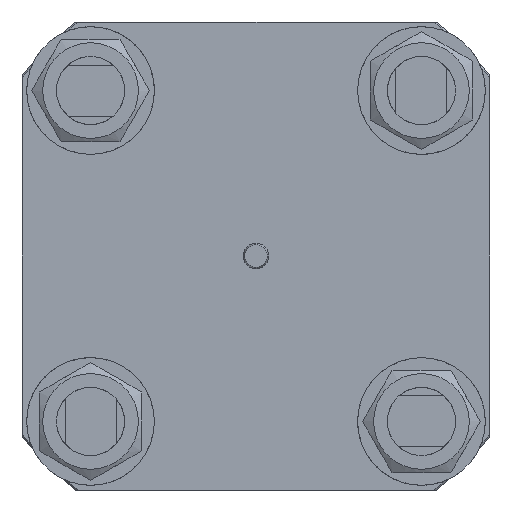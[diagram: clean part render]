
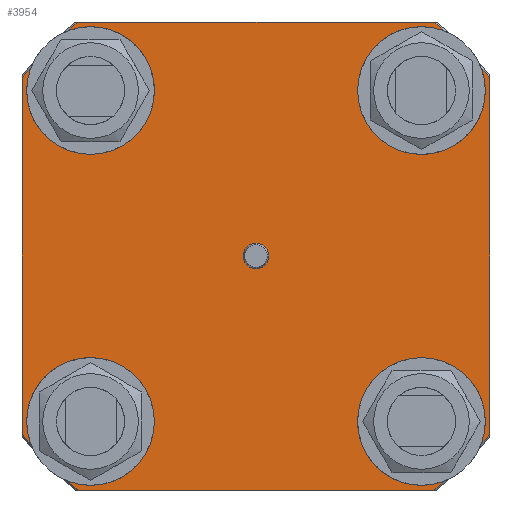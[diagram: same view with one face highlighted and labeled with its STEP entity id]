
A CAD part, left-side view. The second image highlights one B-rep face of the part: STEP entity #3954.
In plain terms, the highlighted planar face has unit normal (-1, 0, 0).
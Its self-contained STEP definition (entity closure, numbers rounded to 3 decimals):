
#285=FACE_BOUND('',#671,.T.);
#424=FACE_OUTER_BOUND('',#670,.T.);
#670=EDGE_LOOP('',(#2936,#2937,#2938,#2939,#2940,#2941,#2942,#2943,#2944,
#2945,#2946,#2947,#2948,#2949,#2950,#2951,#2952,#2953,#2954,#2955));
#671=EDGE_LOOP('',(#2956));
#913=CIRCLE('',#4267,3.);
#926=CIRCLE('',#4312,15.);
#927=CIRCLE('',#4313,15.);
#928=CIRCLE('',#4315,69.);
#929=CIRCLE('',#4316,69.);
#930=CIRCLE('',#4317,15.);
#931=CIRCLE('',#4318,15.);
#932=CIRCLE('',#4319,69.);
#933=CIRCLE('',#4320,69.);
#934=CIRCLE('',#4321,15.);
#935=CIRCLE('',#4322,15.);
#936=CIRCLE('',#4323,69.);
#937=CIRCLE('',#4324,69.);
#938=CIRCLE('',#4325,15.);
#939=CIRCLE('',#4326,15.);
#940=CIRCLE('',#4327,69.);
#941=CIRCLE('',#4328,69.);
#1169=LINE('',#6382,#1384);
#1170=LINE('',#6392,#1385);
#1171=LINE('',#6402,#1386);
#1172=LINE('',#6412,#1387);
#1384=VECTOR('',#5117,10.);
#1385=VECTOR('',#5126,10.);
#1386=VECTOR('',#5135,10.);
#1387=VECTOR('',#5144,10.);
#1620=VERTEX_POINT('',#6146);
#1666=VERTEX_POINT('',#6366);
#1667=VERTEX_POINT('',#6367);
#1669=VERTEX_POINT('',#6374);
#1670=VERTEX_POINT('',#6379);
#1671=VERTEX_POINT('',#6381);
#1672=VERTEX_POINT('',#6383);
#1673=VERTEX_POINT('',#6385);
#1674=VERTEX_POINT('',#6387);
#1675=VERTEX_POINT('',#6389);
#1676=VERTEX_POINT('',#6391);
#1677=VERTEX_POINT('',#6393);
#1678=VERTEX_POINT('',#6395);
#1679=VERTEX_POINT('',#6397);
#1680=VERTEX_POINT('',#6399);
#1681=VERTEX_POINT('',#6401);
#1682=VERTEX_POINT('',#6403);
#1683=VERTEX_POINT('',#6405);
#1684=VERTEX_POINT('',#6407);
#1685=VERTEX_POINT('',#6409);
#1686=VERTEX_POINT('',#6411);
#2048=EDGE_CURVE('',#1620,#1620,#913,.T.);
#2123=EDGE_CURVE('',#1666,#1669,#926,.T.);
#2124=EDGE_CURVE('',#1669,#1667,#927,.T.);
#2126=EDGE_CURVE('',#1667,#1670,#928,.T.);
#2127=EDGE_CURVE('',#1670,#1671,#1169,.T.);
#2128=EDGE_CURVE('',#1671,#1672,#929,.T.);
#2129=EDGE_CURVE('',#1672,#1673,#930,.T.);
#2130=EDGE_CURVE('',#1673,#1674,#931,.T.);
#2131=EDGE_CURVE('',#1674,#1675,#932,.T.);
#2132=EDGE_CURVE('',#1675,#1676,#1170,.T.);
#2133=EDGE_CURVE('',#1676,#1677,#933,.T.);
#2134=EDGE_CURVE('',#1677,#1678,#934,.T.);
#2135=EDGE_CURVE('',#1678,#1679,#935,.T.);
#2136=EDGE_CURVE('',#1679,#1680,#936,.T.);
#2137=EDGE_CURVE('',#1680,#1681,#1171,.T.);
#2138=EDGE_CURVE('',#1681,#1682,#937,.T.);
#2139=EDGE_CURVE('',#1682,#1683,#938,.T.);
#2140=EDGE_CURVE('',#1683,#1684,#939,.T.);
#2141=EDGE_CURVE('',#1684,#1685,#940,.T.);
#2142=EDGE_CURVE('',#1685,#1686,#1172,.T.);
#2143=EDGE_CURVE('',#1686,#1666,#941,.T.);
#2936=ORIENTED_EDGE('',*,*,#2123,.T.);
#2937=ORIENTED_EDGE('',*,*,#2124,.T.);
#2938=ORIENTED_EDGE('',*,*,#2126,.T.);
#2939=ORIENTED_EDGE('',*,*,#2127,.T.);
#2940=ORIENTED_EDGE('',*,*,#2128,.T.);
#2941=ORIENTED_EDGE('',*,*,#2129,.T.);
#2942=ORIENTED_EDGE('',*,*,#2130,.T.);
#2943=ORIENTED_EDGE('',*,*,#2131,.T.);
#2944=ORIENTED_EDGE('',*,*,#2132,.T.);
#2945=ORIENTED_EDGE('',*,*,#2133,.T.);
#2946=ORIENTED_EDGE('',*,*,#2134,.T.);
#2947=ORIENTED_EDGE('',*,*,#2135,.T.);
#2948=ORIENTED_EDGE('',*,*,#2136,.T.);
#2949=ORIENTED_EDGE('',*,*,#2137,.T.);
#2950=ORIENTED_EDGE('',*,*,#2138,.T.);
#2951=ORIENTED_EDGE('',*,*,#2139,.T.);
#2952=ORIENTED_EDGE('',*,*,#2140,.T.);
#2953=ORIENTED_EDGE('',*,*,#2141,.T.);
#2954=ORIENTED_EDGE('',*,*,#2142,.T.);
#2955=ORIENTED_EDGE('',*,*,#2143,.T.);
#2956=ORIENTED_EDGE('',*,*,#2048,.T.);
#3583=PLANE('',#4314);
#3954=ADVANCED_FACE('',(#424,#285),#3583,.T.);
#4267=AXIS2_PLACEMENT_3D('',#6147,#4992,#4993);
#4312=AXIS2_PLACEMENT_3D('',#6375,#5108,#5109);
#4313=AXIS2_PLACEMENT_3D('',#6376,#5110,#5111);
#4314=AXIS2_PLACEMENT_3D('',#6378,#5113,#5114);
#4315=AXIS2_PLACEMENT_3D('',#6380,#5115,#5116);
#4316=AXIS2_PLACEMENT_3D('',#6384,#5118,#5119);
#4317=AXIS2_PLACEMENT_3D('',#6386,#5120,#5121);
#4318=AXIS2_PLACEMENT_3D('',#6388,#5122,#5123);
#4319=AXIS2_PLACEMENT_3D('',#6390,#5124,#5125);
#4320=AXIS2_PLACEMENT_3D('',#6394,#5127,#5128);
#4321=AXIS2_PLACEMENT_3D('',#6396,#5129,#5130);
#4322=AXIS2_PLACEMENT_3D('',#6398,#5131,#5132);
#4323=AXIS2_PLACEMENT_3D('',#6400,#5133,#5134);
#4324=AXIS2_PLACEMENT_3D('',#6404,#5136,#5137);
#4325=AXIS2_PLACEMENT_3D('',#6406,#5138,#5139);
#4326=AXIS2_PLACEMENT_3D('',#6408,#5140,#5141);
#4327=AXIS2_PLACEMENT_3D('',#6410,#5142,#5143);
#4328=AXIS2_PLACEMENT_3D('',#6413,#5145,#5146);
#4992=DIRECTION('center_axis',(1.,0.,0.));
#4993=DIRECTION('ref_axis',(0.,-1.,0.));
#5108=DIRECTION('center_axis',(1.,0.,0.));
#5109=DIRECTION('ref_axis',(0.,1.,0.));
#5110=DIRECTION('center_axis',(1.,0.,0.));
#5111=DIRECTION('ref_axis',(0.,1.,0.));
#5113=DIRECTION('center_axis',(-1.,0.,0.));
#5114=DIRECTION('ref_axis',(0.,0.,1.));
#5115=DIRECTION('center_axis',(-1.,0.,0.));
#5116=DIRECTION('ref_axis',(0.,0.,1.));
#5117=DIRECTION('',(0.,-1.,0.));
#5118=DIRECTION('center_axis',(-1.,0.,0.));
#5119=DIRECTION('ref_axis',(0.,0.,1.));
#5120=DIRECTION('center_axis',(1.,0.,0.));
#5121=DIRECTION('ref_axis',(0.,0.,
-1.));
#5122=DIRECTION('center_axis',(1.,0.,0.));
#5123=DIRECTION('ref_axis',(0.,0.,
-1.));
#5124=DIRECTION('center_axis',(-1.,0.,0.));
#5125=DIRECTION('ref_axis',(0.,0.,1.));
#5126=DIRECTION('',(0.,0.,1.));
#5127=DIRECTION('center_axis',(-1.,0.,0.));
#5128=DIRECTION('ref_axis',(0.,0.,1.));
#5129=DIRECTION('center_axis',(1.,0.,0.));
#5130=DIRECTION('ref_axis',(0.,-1.,0.));
#5131=DIRECTION('center_axis',(1.,0.,0.));
#5132=DIRECTION('ref_axis',(0.,-1.,0.));
#5133=DIRECTION('center_axis',(-1.,0.,0.));
#5134=DIRECTION('ref_axis',(0.,0.,1.));
#5135=DIRECTION('',(0.,1.,0.));
#5136=DIRECTION('center_axis',(-1.,0.,0.));
#5137=DIRECTION('ref_axis',(0.,0.,1.));
#5138=DIRECTION('center_axis',(1.,0.,0.));
#5139=DIRECTION('ref_axis',(0.,0.,
1.));
#5140=DIRECTION('center_axis',(1.,0.,0.));
#5141=DIRECTION('ref_axis',(0.,0.,
1.));
#5142=DIRECTION('center_axis',(-1.,0.,0.));
#5143=DIRECTION('ref_axis',(0.,0.,1.));
#5144=DIRECTION('',(0.,0.,-1.));
#5145=DIRECTION('center_axis',(-1.,0.,0.));
#5146=DIRECTION('ref_axis',(0.,0.,1.));
#6146=CARTESIAN_POINT('',(-276.108,3.,0.));
#6147=CARTESIAN_POINT('Origin',(-276.108,0.,
0.));
#6366=CARTESIAN_POINT('',(-276.108,52.865,-44.343));
#6367=CARTESIAN_POINT('',(-276.108,44.343,-52.865));
#6374=CARTESIAN_POINT('',(-276.108,23.891,-38.891));
#6375=CARTESIAN_POINT('Origin',(-276.108,38.891,-38.891));
#6376=CARTESIAN_POINT('Origin',(-276.108,38.891,-38.891));
#6378=CARTESIAN_POINT('Origin',(-276.108,3.1,0.));
#6379=CARTESIAN_POINT('',(-276.108,41.665,-55.));
#6380=CARTESIAN_POINT('Origin',(-276.108,0.,
0.));
#6381=CARTESIAN_POINT('',(-276.108,-41.665,-55.));
#6382=CARTESIAN_POINT('',(-276.108,27.045,-55.));
#6383=CARTESIAN_POINT('',(-276.108,-44.343,-52.865));
#6384=CARTESIAN_POINT('Origin',(-276.108,0.,
0.));
#6385=CARTESIAN_POINT('',(-276.108,-38.891,-23.891));
#6386=CARTESIAN_POINT('Origin',(-276.108,-38.891,-38.891));
#6387=CARTESIAN_POINT('',(-276.108,-52.865,-44.343));
#6388=CARTESIAN_POINT('Origin',(-276.108,-38.891,-38.891));
#6389=CARTESIAN_POINT('',(-276.108,-55.,-41.665));
#6390=CARTESIAN_POINT('Origin',(-276.108,0.,
0.));
#6391=CARTESIAN_POINT('',(-276.108,-55.,41.665));
#6392=CARTESIAN_POINT('',(-276.108,-55.,-25.495));
#6393=CARTESIAN_POINT('',(-276.108,-52.865,44.343));
#6394=CARTESIAN_POINT('Origin',(-276.108,0.,
0.));
#6395=CARTESIAN_POINT('',(-276.108,-23.891,38.891));
#6396=CARTESIAN_POINT('Origin',(-276.108,-38.891,38.891));
#6397=CARTESIAN_POINT('',(-276.108,-44.343,52.865));
#6398=CARTESIAN_POINT('Origin',(-276.108,-38.891,38.891));
#6399=CARTESIAN_POINT('',(-276.108,-41.665,55.));
#6400=CARTESIAN_POINT('Origin',(-276.108,0.,
0.));
#6401=CARTESIAN_POINT('',(-276.108,41.665,55.));
#6402=CARTESIAN_POINT('',(-276.108,-23.945,55.));
#6403=CARTESIAN_POINT('',(-276.108,44.343,52.865));
#6404=CARTESIAN_POINT('Origin',(-276.108,0.,
0.));
#6405=CARTESIAN_POINT('',(-276.108,38.891,23.891));
#6406=CARTESIAN_POINT('Origin',(-276.108,38.891,38.891));
#6407=CARTESIAN_POINT('',(-276.108,52.865,44.343));
#6408=CARTESIAN_POINT('Origin',(-276.108,38.891,38.891));
#6409=CARTESIAN_POINT('',(-276.108,55.,41.665));
#6410=CARTESIAN_POINT('Origin',(-276.108,0.,
0.));
#6411=CARTESIAN_POINT('',(-276.108,55.,-41.665));
#6412=CARTESIAN_POINT('',(-276.108,55.,25.495));
#6413=CARTESIAN_POINT('Origin',(-276.108,0.,
0.));
